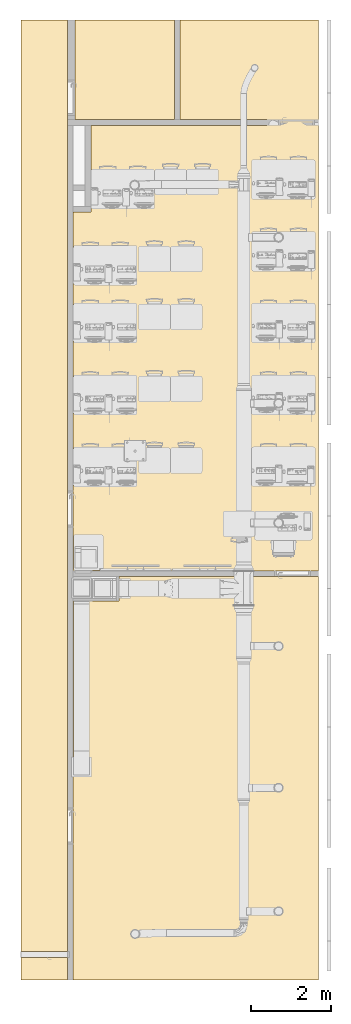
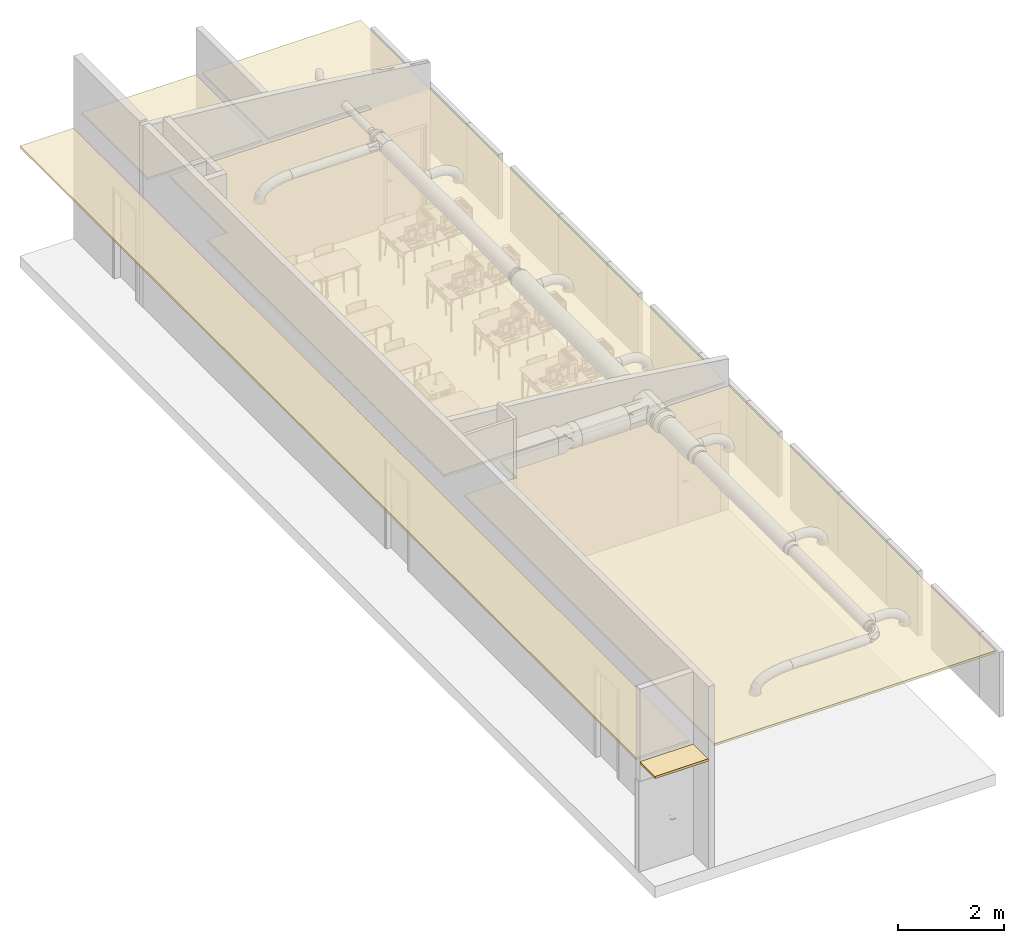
# One storey, part 6 of 31: 5 coverings.
"""IFC2X3 building model written with IfcOpenShell, lengths in millimetres."""

import ifcopenshell
import ifcopenshell.guid

model = None  # the IFC model being written
_history = None  # IfcOwnerHistory: only IFC2X3 demands one
_inside = {}  # id of a spatial element -> (the spatial element, [elements in it])
_under = {}  # id of a project, library or spatial element -> (it, [spatial elements below it])
_declared = {}  # id of a project -> (the project, [libraries it declares])
_typed = {}  # id of a type object -> (the type object, [elements of that type])
_made_of = {}  # id of a material, layer set ... -> (it, [elements and type objects made of it])


def new_model(schema):
    """Start an empty IFC model of exactly this schema.

    Asked for "IFC4X3", IfcOpenShell would pick the latest addendum, in which some entities
    have other attributes; the version numbers below select the first issue.
    IFC2X3 requires an IfcOwnerHistory on every rooted entity: one is made here for all.
    """
    global model, _history
    if schema == "IFC4X3":
        model = ifcopenshell.file(schema_version=(4, 3, 0, 0))
    else:
        model = ifcopenshell.file(schema=schema)
    _inside.clear()
    _under.clear()
    _declared.clear()
    _typed.clear()
    _made_of.clear()
    _history = None
    if model.schema == "IFC2X3":
        org = make("IfcOrganization", Name="unknown")
        user = make(
            "IfcPersonAndOrganization",
            ThePerson=make("IfcPerson", FamilyName="unknown"),
            TheOrganization=org,
        )
        app = make(
            "IfcApplication",
            ApplicationDeveloper=org,
            Version="unknown",
            ApplicationFullName="unknown",
            ApplicationIdentifier="unknown",
        )
        _history = make(
            "IfcOwnerHistory",
            OwningUser=user,
            OwningApplication=app,
            ChangeAction="ADDED",
            CreationDate=0,
        )
    return model


def make(cls, **values):
    """One entity of the class cls with the attributes given. An attribute that is None is left unset."""
    return model.create_entity(
        cls, **{name: value for name, value in values.items() if value is not None}
    )


def entity(cls, *values):
    """Any entity or typed value of the class cls, its attributes in the order of the schema. None: left unset."""
    e = model.create_entity(cls)
    for i, value in enumerate(values):
        if value is not None:
            e[i] = value
    return e


def rooted(cls, **values):
    """An entity with a GlobalId (a new one), such as an element, a storey or a relation."""
    return make(cls, GlobalId=ifcopenshell.guid.new(), OwnerHistory=_history, **values)


def si_unit(unit_type, name, prefix=None):
    """IfcSIUnit, for example si_unit("LENGTHUNIT", "METRE", prefix="MILLI")."""
    return make("IfcSIUnit", UnitType=unit_type, Prefix=prefix, Name=name)


def converted_unit(unit_type, name, factor, base, dimensions=None, offset=None):
    """IfcConversionBasedUnit, such as the inch: factor (a typed value) times the base unit."""
    return make(
        "IfcConversionBasedUnit"
        if offset is None
        else "IfcConversionBasedUnitWithOffset",
        ConversionOffset=offset,
        Dimensions=None
        if dimensions is None
        else entity("IfcDimensionalExponents", *dimensions),
        UnitType=unit_type,
        Name=name,
        ConversionFactor=make(
            "IfcMeasureWithUnit", ValueComponent=factor, UnitComponent=base
        ),
    )


def derived_unit(unit_type, elements):
    """IfcDerivedUnit: a product of units, each with its exponent."""
    return make(
        "IfcDerivedUnit",
        Elements=[
            make("IfcDerivedUnitElement", Unit=unit, Exponent=power)
            for unit, power in elements
        ],
        UnitType=unit_type,
    )


def assignment(units):
    """IfcUnitAssignment: the units of a project."""
    return None if units is None else make("IfcUnitAssignment", Units=units)


def point(xyz):
    """IfcCartesianPoint."""
    return None if xyz is None else make("IfcCartesianPoint", Coordinates=xyz)


def direction(xyz):
    """IfcDirection."""
    return None if xyz is None else make("IfcDirection", DirectionRatios=xyz)


def frame(location, z_axis=None, x_axis=None):
    """IfcAxis2Placement3D, a coordinate frame: its origin and axes. An axis left out is left unset."""
    return make(
        "IfcAxis2Placement3D",
        Location=point(location),
        Axis=direction(z_axis),
        RefDirection=direction(x_axis),
    )


def frame_2d(location, x_axis=None):
    """IfcAxis2Placement2D, a coordinate frame in the plane: its origin and x axis."""
    return make(
        "IfcAxis2Placement2D", Location=point(location), RefDirection=direction(x_axis)
    )


def origin():
    """The frame at (0, 0, 0) with its axes left unset."""
    return frame((0.0, 0.0, 0.0))


def place(relative_to, where):
    """IfcLocalPlacement: puts the frame where relative to a parent placement (None: the world)."""
    return make(
        "IfcLocalPlacement", PlacementRelTo=relative_to, RelativePlacement=where
    )


def context(
    kind, dimensions, precision=None, world=None, true_north=None, identifier=None
):
    """IfcGeometricRepresentationContext, for example the 3D "Model" context."""
    return make(
        "IfcGeometricRepresentationContext",
        ContextIdentifier=identifier,
        ContextType=kind,
        CoordinateSpaceDimension=dimensions,
        Precision=precision,
        WorldCoordinateSystem=world,
        TrueNorth=true_north,
    )


def subcontext(parent, identifier, kind, view, scale=None):
    """IfcGeometricRepresentationSubContext, for example "Body" below "Model"."""
    return make(
        "IfcGeometricRepresentationSubContext",
        ContextIdentifier=identifier,
        ContextType=kind,
        ParentContext=parent,
        TargetScale=scale,
        TargetView=view,
    )


def project(units=None, contexts=None):
    """IfcProject with its units and contexts."""
    return rooted(
        "IfcProject",
        Name="project",
        RepresentationContexts=contexts,
        UnitsInContext=assignment(units),
    )


def spatial(cls, under=None, at=None, **own):
    """A site, building, storey or space (cls), placed at a placement, below another one or the project."""
    s = rooted(cls, ObjectPlacement=at, **own)
    if under is not None:
        _under.setdefault(under.id(), (under, []))[1].append(s)
    return s


def polyline(points):
    """IfcPolyline through the points."""
    return make("IfcPolyline", Points=[point(p) for p in points])


def profile(cls, at=None, kind="AREA", **sizes):
    """A parametric profile (cls). Its sizes go by their IFC names, for example OverallWidth=200.0."""
    return make(cls, ProfileType=kind, Position=at, **sizes)


def rectangle(**sizes):
    """IfcRectangleProfileDef."""
    return profile("IfcRectangleProfileDef", **sizes)


def outline(outer, holes=None, kind="AREA"):
    """IfcArbitraryClosedProfileDef: a profile drawn as a closed curve; with holes, ...WithVoids."""
    if holes is None:
        return make("IfcArbitraryClosedProfileDef", ProfileType=kind, OuterCurve=outer)
    return make(
        "IfcArbitraryProfileDefWithVoids",
        ProfileType=kind,
        OuterCurve=outer,
        InnerCurves=holes,
    )


def extrude(swept, where, along, depth):
    """IfcExtrudedAreaSolid: the profile swept, set in the frame where, extruded along a direction by depth."""
    return make(
        "IfcExtrudedAreaSolid",
        SweptArea=swept,
        Position=where,
        ExtrudedDirection=direction(along),
        Depth=depth,
    )


def shape(context_of_items, identifier, shape_type, items):
    """IfcShapeRepresentation: the items that make up one representation, for example the "Body"."""
    return make(
        "IfcShapeRepresentation",
        ContextOfItems=context_of_items,
        RepresentationIdentifier=identifier,
        RepresentationType=shape_type,
        Items=items,
    )


def material(Name=None, Category=None):
    """IfcMaterial."""
    return make("IfcMaterial", Name=Name, Category=Category)


def layer(
    of_material, thickness, ventilated=None, Name=None, Category=None, Priority=None
):
    """IfcMaterialLayer: one layer of a wall or slab, of a material (None: an air gap)."""
    return make(
        "IfcMaterialLayer",
        Material=of_material,
        LayerThickness=thickness,
        IsVentilated=ventilated,
        Name=Name,
        Category=Category,
        Priority=Priority,
    )


def layer_set(layers, Name=None):
    """IfcMaterialLayerSet."""
    return make("IfcMaterialLayerSet", MaterialLayers=layers, LayerSetName=Name)


def layer_usage(for_layer_set, set_direction, sense, offset, extent=None):
    """IfcMaterialLayerSetUsage: how a layer set lies in its element."""
    return make(
        "IfcMaterialLayerSetUsage",
        ForLayerSet=for_layer_set,
        LayerSetDirection=set_direction,
        DirectionSense=sense,
        OffsetFromReferenceLine=offset,
        ReferenceExtent=extent,
    )


def made_of(thing, what):
    """Note that an element or type object is made of a material, layer set ...; save() writes the relation."""
    if what is not None:
        _made_of.setdefault(what.id(), (what, []))[1].append(thing)
    return thing


def type_object(cls, material=None, **own):
    """A type object (cls), such as IfcWallType, which elements share."""
    return made_of(rooted(cls, **own), material)


def element(
    cls,
    number,
    at=None,
    inside=None,
    cuts=None,
    type_object=None,
    material=None,
    context=None,
    identifier="Body",
    shape_type=None,
    held_by="IfcProductDefinitionShape",
    body=None,
    shapes=None,
    **own,
):
    """One element of the class cls, such as IfcWall. Its Tag is "e" and its number.

    at: its placement. inside: the storey or other place that contains it. cuts: it is an
    opening in that element (IfcRelVoidsElement). A single representation is given by context,
    identifier, shape_type and body (its items); several are given by shapes. held_by: the class
    of the entity that holds the representations. save() writes the other relations.
    """
    e = rooted(cls, Tag="e%d" % number, ObjectPlacement=at, **own)
    if body is not None:
        shapes = [shape(context, identifier, shape_type, body)]
    if shapes is not None:
        e.Representation = make(held_by, Representations=shapes)
    if inside is not None:
        _inside.setdefault(inside.id(), (inside, []))[1].append(e)
    if cuts is not None:
        rooted(
            "IfcRelVoidsElement", RelatingBuildingElement=cuts, RelatedOpeningElement=e
        )
    if type_object is not None:
        _typed.setdefault(type_object.id(), (type_object, []))[1].append(e)
    return made_of(e, material)


def aggregate(whole, parts):
    """IfcRelAggregates: a whole, such as a stair, and the parts it consists of."""
    return rooted("IfcRelAggregates", RelatingObject=whole, RelatedObjects=parts)


def save(model, path):
    """Write the relations noted so far, then the file.

    IfcRelAggregates (storeys below a building ...), IfcRelContainedInSpatialStructure (elements
    in a storey), IfcRelDefinesByType, IfcRelAssociatesMaterial and IfcRelDeclares: one each for
    every whole, place, type object, material and project.
    """
    for whole, parts in _under.values():
        aggregate(whole, parts)
    for where, things in _inside.values():
        rooted(
            "IfcRelContainedInSpatialStructure",
            RelatedElements=things,
            RelatingStructure=where,
        )
    for kind, things in _typed.values():
        rooted("IfcRelDefinesByType", RelatedObjects=things, RelatingType=kind)
    for what, things in _made_of.values():
        rooted("IfcRelAssociatesMaterial", RelatedObjects=things, RelatingMaterial=what)
    for by, libraries in _declared.values():
        rooted("IfcRelDeclares", RelatingContext=by, RelatedDefinitions=libraries)
    model.write(path)


model = new_model("IFC2X3")

# Units and contexts
model_context = context("Model", 3, precision=0.01, world=origin(), true_north=direction((6.123031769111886e-17, 1.0)))
body_context = subcontext(model_context, "Body", "Model", "MODEL_VIEW")
ifc_project = project(units=[si_unit("LENGTHUNIT", "METRE", prefix="MILLI"), si_unit("AREAUNIT", "SQUARE_METRE"), si_unit("VOLUMEUNIT", "CUBIC_METRE"), converted_unit("PLANEANGLEUNIT", "DEGREE", entity("IfcRatioMeasure", 0.017453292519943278), si_unit("PLANEANGLEUNIT", "RADIAN"), dimensions=[0, 0, 0, 0, 0, 0, 0]), si_unit("MASSUNIT", "GRAM", prefix="KILO"), derived_unit("MASSDENSITYUNIT", [(si_unit("MASSUNIT", "GRAM", prefix="KILO"), 1), (si_unit("LENGTHUNIT", "METRE"), -3)]), derived_unit("MOMENTOFINERTIAUNIT", [(si_unit("LENGTHUNIT", "METRE"), 4)]), si_unit("TIMEUNIT", "SECOND"), si_unit("FREQUENCYUNIT", "HERTZ"), si_unit("THERMODYNAMICTEMPERATUREUNIT", "DEGREE_CELSIUS"), derived_unit("THERMALTRANSMITTANCEUNIT", [(si_unit("MASSUNIT", "GRAM", prefix="KILO"), 1), (si_unit("THERMODYNAMICTEMPERATUREUNIT", "KELVIN"), -1), (si_unit("TIMEUNIT", "SECOND"), -3)]), derived_unit("VOLUMETRICFLOWRATEUNIT", [(si_unit("LENGTHUNIT", "METRE"), 3), (si_unit("TIMEUNIT", "SECOND"), -1)]), derived_unit("MASSFLOWRATEUNIT", [(si_unit("MASSUNIT", "GRAM", prefix="KILO"), 1), (si_unit("TIMEUNIT", "SECOND"), -1)]), derived_unit("ROTATIONALFREQUENCYUNIT", [(si_unit("TIMEUNIT", "SECOND"), -1)]), si_unit("ELECTRICCURRENTUNIT", "AMPERE"), si_unit("ELECTRICVOLTAGEUNIT", "VOLT"), si_unit("POWERUNIT", "WATT"), si_unit("FORCEUNIT", "NEWTON", prefix="KILO"), si_unit("ILLUMINANCEUNIT", "LUX"), si_unit("LUMINOUSFLUXUNIT", "LUMEN"), si_unit("LUMINOUSINTENSITYUNIT", "CANDELA"), derived_unit("USERDEFINED", [(si_unit("MASSUNIT", "GRAM", prefix="KILO"), -1), (si_unit("LENGTHUNIT", "METRE"), -2), (si_unit("TIMEUNIT", "SECOND"), 3), (si_unit("LUMINOUSFLUXUNIT", "LUMEN"), 1)]), derived_unit("SOUNDPOWERUNIT", [(si_unit("MASSUNIT", "GRAM", prefix="KILO"), 1), (si_unit("LENGTHUNIT", "METRE"), 2), (si_unit("TIMEUNIT", "SECOND"), -3)]), derived_unit("SOUNDPRESSUREUNIT", [(si_unit("MASSUNIT", "GRAM", prefix="KILO"), 1), (si_unit("LENGTHUNIT", "METRE"), -1), (si_unit("TIMEUNIT", "SECOND"), -2)]), derived_unit("LINEARVELOCITYUNIT", [(si_unit("LENGTHUNIT", "METRE"), 1), (si_unit("TIMEUNIT", "SECOND"), -1)]), si_unit("PRESSUREUNIT", "PASCAL"), derived_unit("USERDEFINED", [(si_unit("LENGTHUNIT", "METRE"), -2), (si_unit("MASSUNIT", "GRAM", prefix="KILO"), 1), (si_unit("TIMEUNIT", "SECOND"), -2)]), derived_unit("LINEARFORCEUNIT", [(si_unit("MASSUNIT", "GRAM", prefix="KILO"), 1), (si_unit("LENGTHUNIT", "METRE"), 1), (si_unit("TIMEUNIT", "SECOND"), -2), (si_unit("LENGTHUNIT", "METRE"), -1)]), derived_unit("PLANARFORCEUNIT", [(si_unit("MASSUNIT", "GRAM", prefix="KILO"), 1), (si_unit("LENGTHUNIT", "METRE"), 1), (si_unit("TIMEUNIT", "SECOND"), -2), (si_unit("LENGTHUNIT", "METRE"), -2)])], contexts=[model_context])

# Site, building, storey
site_placement = place(None, origin())
site = spatial("IfcSite", under=ifc_project, at=site_placement, Name="Default", CompositionType="ELEMENT")
building_placement = place(site_placement, origin())
building = spatial("IfcBuilding", under=site, at=building_placement, CompositionType="ELEMENT")
storey_placement = place(building_placement, frame((0.0, 0.0, 3880.0)))
storey = spatial("IfcBuildingStorey", under=building, at=storey_placement, Name="Niveau 1", CompositionType="ELEMENT", Elevation=3880.0)

# Coverings
ifc_material_1 = material(Name="Par défaut")
ifc_layer_1 = layer(ifc_material_1, 35.99999999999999)
ifc_material_2 = material(Name="Panneau de plafond 600 x 600")
ifc_layer_2 = layer(ifc_material_2, 15.999999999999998)
ifc_layer_set = layer_set([ifc_layer_1, ifc_layer_2], Name="Plafond composé:Quadrillage 600 x 600 mm")
ifc_layer_usage_1 = layer_usage(ifc_layer_set, "AXIS3", "POSITIVE", 0.0)
covering_type_1 = type_object("IfcCoveringType", Name="Plafond composé:Quadrillage 600 x 600 mm", PredefinedType="CEILING")
covering_1_placement = place(storey_placement, origin())
element("IfcCovering", 1, at=covering_1_placement, inside=storey, type_object=covering_type_1, material=ifc_layer_usage_1, Name="Plafond composé:Quadrillage 600 x 600 mm", ObjectType="Plafond composé:Quadrillage 600 x 600 mm", PredefinedType="CEILING", context=body_context, shape_type="SweptSolid", body=[
    extrude(outline(polyline([(-146.0, -2254.0), (-146.0, -4754.0), (3324.0, -4754.0), (3324.0, 9056.0), (-2826.0, 9056.0), (-2826.0, 66.0), (-2386.0, 66.0), (-2386.0, -2114.0), (2034.0, -2114.0), (2034.0, -2254.0), (-146.0, -2254.0)])), frame((-3644.0, -5074.0, 2800.0), z_axis=(0.0, 0.0, -1.0), x_axis=(1.0, 0.0, 0.0)), (0.0, 0.0, -1.0), 52.00000000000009),
])
ifc_layer_usage_2 = layer_usage(ifc_layer_set, "AXIS3", "POSITIVE", 0.0)
covering_type_2 = type_object("IfcCoveringType", Name="Plafond composé:Quadrillage 600 x 600 mm", PredefinedType="CEILING")
covering_2_placement = place(storey_placement, origin())
element("IfcCovering", 2, at=covering_2_placement, inside=storey, type_object=covering_type_2, material=ifc_layer_usage_2, Name="Plafond composé:Quadrillage 600 x 600 mm", ObjectType="Plafond composé:Quadrillage 600 x 600 mm", PredefinedType="CEILING", context=body_context, shape_type="SweptSolid", body=[
    extrude(outline(polyline([(-3716.666666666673, -3580.0), (1283.333333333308, -3580.0), (1283.333333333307, -2960.0), (2433.3333333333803, -2960.0), (2433.3333333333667, 6540.0), (-3716.6666666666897, 6540.0), (-3716.666666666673, -3580.0)])), frame((-4036.6666666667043, -17850.0, 2800.0), z_axis=(0.0, 0.0, 1.0), x_axis=(-1.0, 0.0, 0.0)), (0.0, 0.0, 1.0), 52.00000000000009),
])
ifc_layer_usage_3 = layer_usage(ifc_layer_set, "AXIS3", "POSITIVE", 0.0)
covering_type_3 = type_object("IfcCoveringType", Name="Plafond composé:Quadrillage 600 x 600 mm", PredefinedType="CEILING")
covering_3_placement = place(storey_placement, origin())
element("IfcCovering", 3, at=covering_3_placement, inside=storey, type_object=covering_type_3, material=ifc_layer_usage_3, Name="Plafond composé:Quadrillage 600 x 600 mm", ObjectType="Plafond composé:Quadrillage 600 x 600 mm", PredefinedType="CEILING", context=body_context, shape_type="SweptSolid", body=[
    extrude(rectangle(XDim=2500.00000000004, YDim=2500.0000000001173, at=frame_2d((0.0, -2.2737367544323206e-13), x_axis=(1.0, 0.0))), frame((-5180.0, -1570.0, 2800.0), z_axis=(0.0, 0.0, 1.0), x_axis=(0.0, -1.0, 0.0)), (0.0, 0.0, 1.0), 52.00000000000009),
])
ifc_layer_usage_4 = layer_usage(ifc_layer_set, "AXIS3", "POSITIVE", 0.0)
covering_type_4 = type_object("IfcCoveringType", Name="Plafond composé:Quadrillage 600 x 600 mm", PredefinedType="CEILING")
covering_4_placement = place(storey_placement, origin())
element("IfcCovering", 4, at=covering_4_placement, inside=storey, type_object=covering_type_4, material=ifc_layer_usage_4, Name="Plafond composé:Quadrillage 600 x 600 mm", ObjectType="Plafond composé:Quadrillage 600 x 600 mm", PredefinedType="CEILING", context=body_context, shape_type="SweptSolid", body=[
    extrude(rectangle(XDim=1169.9999999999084, YDim=23360.000000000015, at=frame_2d((-116.99999999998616, -1821.9999999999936), x_axis=(1.0, 0.0))), frame((-7078.0, -10178.0, 2500.0)), (0.0, 0.0, 1.0), 52.00000000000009),
])
ifc_layer_usage_5 = layer_usage(ifc_layer_set, "AXIS3", "POSITIVE", 0.0)
covering_type_5 = type_object("IfcCoveringType", Name="Plafond composé:Quadrillage 600 x 600 mm", PredefinedType="CEILING")
covering_5_placement = place(storey_placement, origin())
element("IfcCovering", 5, at=covering_5_placement, inside=storey, type_object=covering_type_5, material=ifc_layer_usage_5, Name="Plafond composé:Quadrillage 600 x 600 mm", ObjectType="Plafond composé:Quadrillage 600 x 600 mm", PredefinedType="CEILING", context=body_context, shape_type="SweptSolid", body=[
    extrude(rectangle(XDim=570.0000000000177, YDim=1169.9999999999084, at=frame_2d((2.1600499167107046e-12, 0.0), x_axis=(1.0, 0.0))), frame((-7195.0, -24105.0, 2500.0), z_axis=(0.0, 0.0, 1.0), x_axis=(0.0, 1.0, 0.0)), (0.0, 0.0, 1.0), 52.00000000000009),
])

save(model, "model.ifc")
